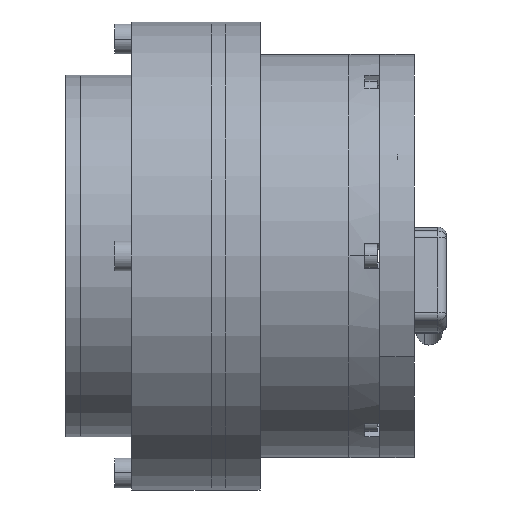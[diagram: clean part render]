
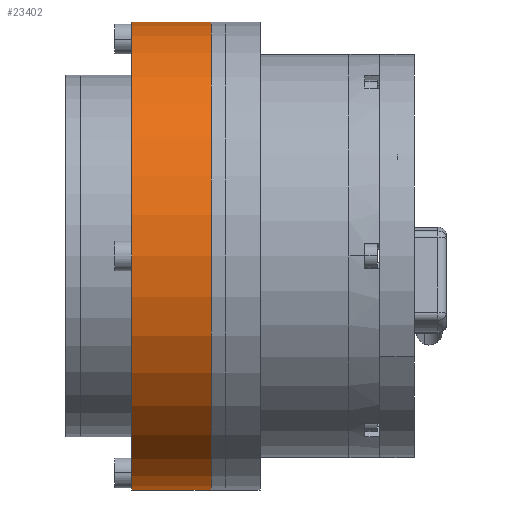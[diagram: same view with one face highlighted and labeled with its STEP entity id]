
A CAD part, left-side view. The second image highlights one B-rep face of the part: STEP entity #23402.
In plain terms, the highlighted cylindrical face has radius 55 mm (diameter 110 mm), a partial arc.
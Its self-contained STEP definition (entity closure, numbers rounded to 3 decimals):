
#492 = VECTOR ( 'NONE', #8005, 1000. ) ;
#599 = AXIS2_PLACEMENT_3D ( 'NONE', #25544, #5234, #14014 ) ;
#1685 = VERTEX_POINT ( 'NONE', #10570 ) ;
#1919 = DIRECTION ( 'NONE',  ( 0., 0., -1. ) ) ;
#1943 = CARTESIAN_POINT ( 'NONE',  ( 0., 3.3, 55. ) ) ;
#2185 = EDGE_CURVE ( 'NONE', #18582, #1685, #8409, .T. ) ;
#3891 = DIRECTION ( 'NONE',  ( 0., 1., 0. ) ) ;
#4040 = DIRECTION ( 'NONE',  ( 0., 0., 1. ) ) ;
#5234 = DIRECTION ( 'NONE',  ( 0., -1., 0. ) ) ;
#6375 = ORIENTED_EDGE ( 'NONE', *, *, #12339, .F. ) ;
#8005 = DIRECTION ( 'NONE',  ( 0., -1., 0. ) ) ;
#8149 = CARTESIAN_POINT ( 'NONE',  ( 0., 22., 0. ) ) ;
#8321 = ORIENTED_EDGE ( 'NONE', *, *, #9822, .F. ) ;
#8394 = VECTOR ( 'NONE', #12939, 1000. ) ;
#8409 = LINE ( 'NONE', #10661, #492 ) ;
#9552 = AXIS2_PLACEMENT_3D ( 'NONE', #8149, #3891, #4040 ) ;
#9822 = EDGE_CURVE ( 'NONE', #17072, #1685, #19501, .T. ) ;
#9864 = CYLINDRICAL_SURFACE ( 'NONE', #599, 55. ) ;
#10149 = CARTESIAN_POINT ( 'NONE',  ( 0., 3.3, 0. ) ) ;
#10570 = CARTESIAN_POINT ( 'NONE',  ( 0., 3.3, -55. ) ) ;
#10661 = CARTESIAN_POINT ( 'NONE',  ( 0., 22., -55. ) ) ;
#11808 = AXIS2_PLACEMENT_3D ( 'NONE', #10149, #12411, #1919 ) ;
#12339 = EDGE_CURVE ( 'NONE', #18582, #13134, #18109, .T. ) ;
#12411 = DIRECTION ( 'NONE',  ( 0., -1., 0. ) ) ;
#12939 = DIRECTION ( 'NONE',  ( 0., -1., 0. ) ) ;
#13134 = VERTEX_POINT ( 'NONE', #13461 ) ;
#13461 = CARTESIAN_POINT ( 'NONE',  ( 0., 22., 55. ) ) ;
#13878 = FACE_OUTER_BOUND ( 'NONE', #16673, .T. ) ;
#14014 = DIRECTION ( 'NONE',  ( 0., 0., -1. ) ) ;
#14843 = LINE ( 'NONE', #17084, #8394 ) ;
#16033 = ORIENTED_EDGE ( 'NONE', *, *, #2185, .T. ) ;
#16673 = EDGE_LOOP ( 'NONE', ( #21290, #6375, #16033, #8321 ) ) ;
#17072 = VERTEX_POINT ( 'NONE', #1943 ) ;
#17084 = CARTESIAN_POINT ( 'NONE',  ( 0., 22., 55. ) ) ;
#18109 = CIRCLE ( 'NONE', #9552, 55. ) ;
#18582 = VERTEX_POINT ( 'NONE', #21995 ) ;
#19501 = CIRCLE ( 'NONE', #11808, 55. ) ;
#21290 = ORIENTED_EDGE ( 'NONE', *, *, #22022, .F. ) ;
#21995 = CARTESIAN_POINT ( 'NONE',  ( 0., 22., -55. ) ) ;
#22022 = EDGE_CURVE ( 'NONE', #13134, #17072, #14843, .T. ) ;
#23402 = ADVANCED_FACE ( 'NONE', ( #13878 ), #9864, .T. ) ;
#25544 = CARTESIAN_POINT ( 'NONE',  ( 0., 22., 0. ) ) ;
